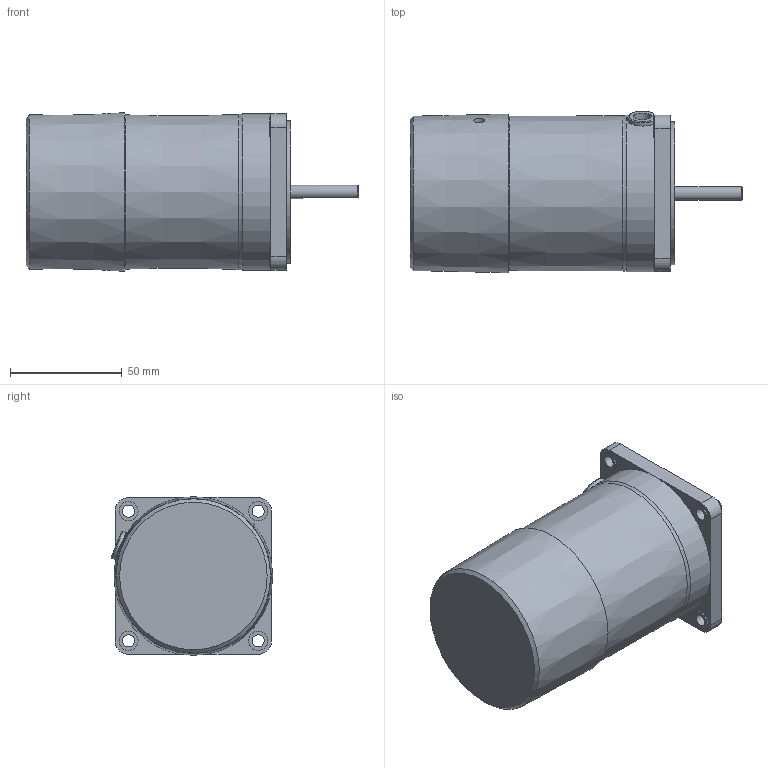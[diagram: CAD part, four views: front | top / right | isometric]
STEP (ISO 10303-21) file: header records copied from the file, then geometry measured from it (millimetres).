
FILE_DESCRIPTION((''),'2;1');
FILE_NAME('D:\김성묵\업무폴더\개발 파일\프로젝트 개발 AB등급\AC표준형 개발자료\90각 이하 표준형 개발\도면작성 자료\3D 도면\홈페이지용 3D 파일\15W MOTOR\BRACK TYPE\S7I15D-E.stp','2015-03-26T11:30:03',('smkim'),(''),'Autodesk Inventor 2012','Autodesk Inventor 2012','');
FILE_SCHEMA(('AUTOMOTIVE_DESIGN { 1 0 10303 214 1 1 1 1 }'));
Length unit declared in the file: millimetre
Products named in the file (5): S7I15D-E; S7I15GㅁCE; 6_CORD BUSH; 15W_전자BK COVER; S7_HOUSING D
Assembly tree (4 placements, depth 2):
  S7I15D-E
    S7I15GㅁCE
    6_CORD BUSH
    15W_전자BK COVER
    S7_HOUSING D
Bounding box: 148.5 x 72.22 x 70.99 mm (x, y, z)
Volume: 474577.3 mm3; surface area: 55862.5 mm2
Topology: 4 solids, 5 shells, 101 faces, 238 edges, 157 vertices
Faces by surface type: plane 60, cylinder 31, cone 8, torus 2
Full cylindrical faces by diameter (mm): 5 x1, 5.5 x4, 6 x1, 8 x1, 8.5 x4, 10 x1, 28 x1, 64 x1, 68 x1, 70 x1
Entity records: 3003 total; most frequent: CARTESIAN_POINT 575, DIRECTION 506, ORIENTED_EDGE 422, EDGE_CURVE 211, AXIS2_PLACEMENT_3D 198, VERTEX_POINT 152, EDGE_LOOP 147, VECTOR 110
